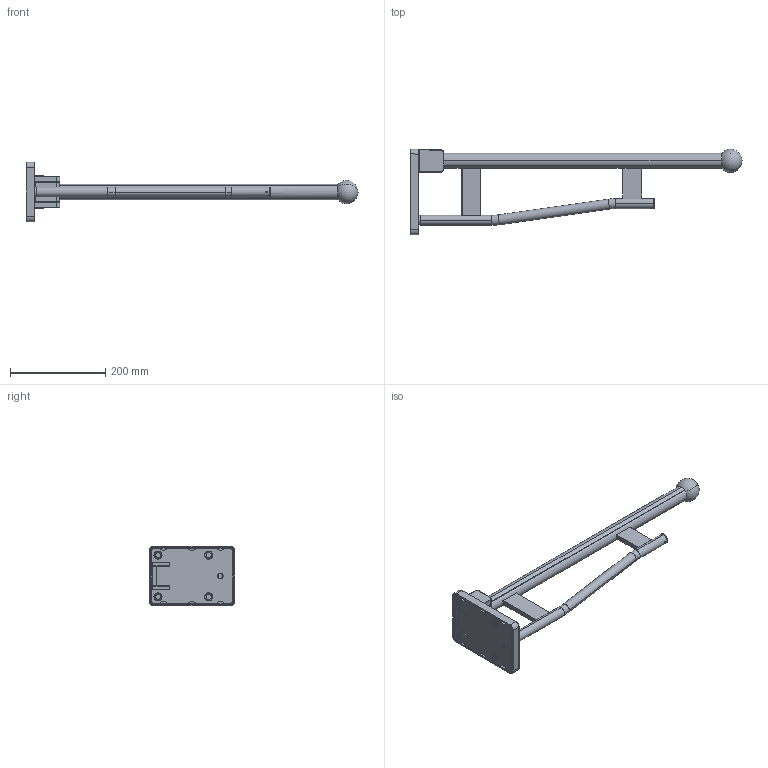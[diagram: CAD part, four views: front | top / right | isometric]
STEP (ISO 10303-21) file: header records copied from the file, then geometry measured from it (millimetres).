
FILE_DESCRIPTION (( 'STEP AP203' ), '1' );
FILE_NAME ('73156-00-00.STEP', '2024-12-06T00:17:00', ( '' ), ( '' ), 'SwSTEP 2.0', 'SolidWorks 2015', '' );
FILE_SCHEMA (( 'CONFIG_CONTROL_DESIGN' ));
Length unit declared in the file: millimetre
Products named in the file (1): 73156-00-00
Bounding box: 698.5 x 180 x 125 mm (x, y, z)
Surface area: 249554.9 mm2 (no closed solid volume)
Topology: 0 solids, 26 shells, 304 faces, 1072 edges, 778 vertices
Faces by surface type: cylinder 117, plane 113, bspline 30, cone 26, torus 16, sphere 2
Entity records: 12835 total; most frequent: CARTESIAN_POINT 4017, DIRECTION 1819, ORIENTED_EDGE 1612, EDGE_CURVE 1065, VERTEX_POINT 775, AXIS2_PLACEMENT_3D 639, VECTOR 541, LINE 541
